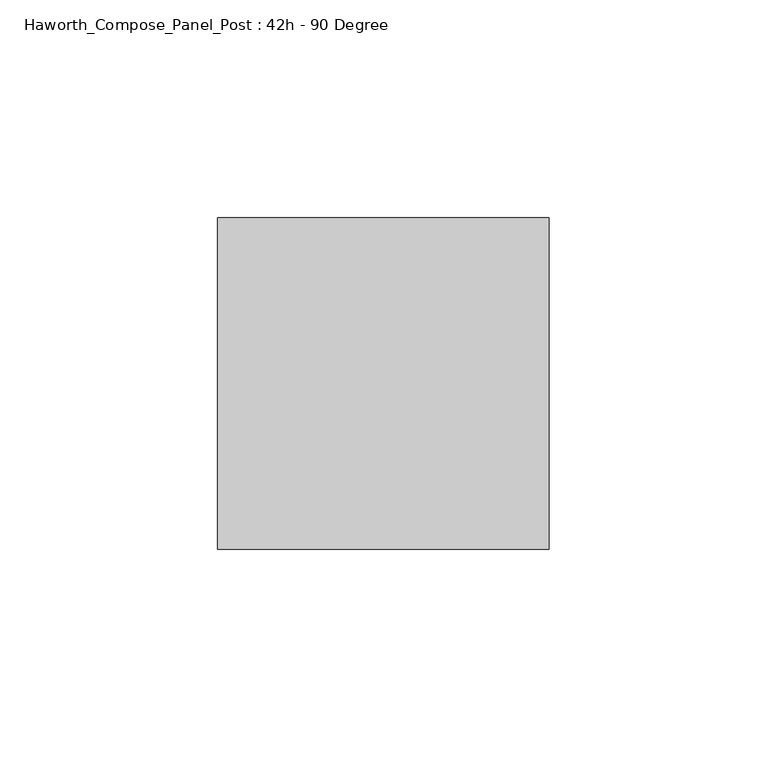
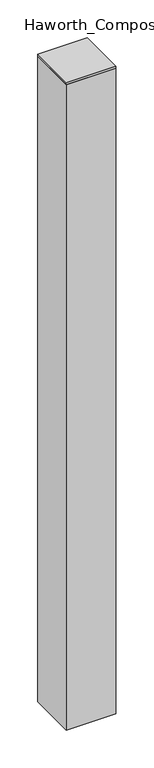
"""IFC4 building model written with IfcOpenShell, lengths in millimetres: furniture geometry, Haworth_Compose_Panel_Post : 42h - 90 Degree."""

from ifc_helpers import new_model, si_unit, frame, origin, place, context, project, spatial, polyline, outline, extrude, source, transform, mapped, element, save


def haworth_compose_panel_post_42h_90_degree_03610c70(model_context):
    return source(origin(), model_context, "Body", "SweptSolid", [
        extrude(outline(polyline([(0.0, 38.1), (76.2, 38.1), (76.2, -38.1), (0.0, -38.1), (0.0, 38.1)])), frame((0.0, 0.0, 1060.45), z_axis=(0.0, 0.0, 1.0), x_axis=(1.0, 0.0, 0.0)), (0.0, 0.0, 1.0), 3.175),
        extrude(outline(polyline([(76.2, 38.1), (76.2, -38.1), (0.0, -38.1), (0.0, 38.1), (76.2, 38.1)])), frame((0.0, 0.0, 12.7), z_axis=(0.0, 0.0, 1.0), x_axis=(1.0, 0.0, 0.0)), (0.0, 0.0, 1.0), 1047.75),
    ])


if __name__ == "__main__":
    model = new_model("IFC4")
    model_context = context("Model", 3, world=origin())
    ifc_project = project(units=[si_unit("LENGTHUNIT", "METRE", prefix="MILLI")], contexts=[model_context])
    site = spatial("IfcSite", under=ifc_project)
    building = spatial("IfcBuilding", under=site)
    placement = place(None, origin())
    haworth_compose_panel_post_42h_90_degree_shape = haworth_compose_panel_post_42h_90_degree_03610c70(model_context)
    element("IfcFurniture", 1, ObjectType="Haworth_Compose_Panel_Post : 42h - 90 Degree", at=placement, inside=building, context=model_context, shape_type="MappedRepresentation", body=[
        mapped(haworth_compose_panel_post_42h_90_degree_shape, transform((0.0, 0.0, 0.0), x_axis=(1.0, 0.0, 0.0), y_axis=(0.0, 1.0, 0.0), z_axis=(0.0, 0.0, 1.0))),
    ])
    save(model, "model.ifc")
